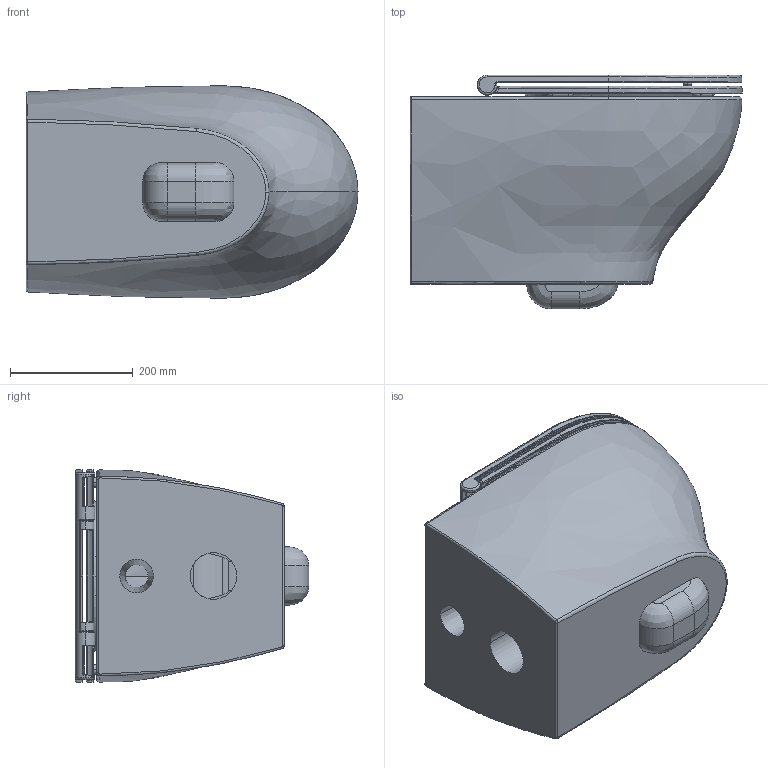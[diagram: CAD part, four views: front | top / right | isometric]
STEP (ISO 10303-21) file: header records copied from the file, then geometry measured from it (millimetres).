
FILE_DESCRIPTION (( 'STEP AP203' ), '1' );
FILE_NAME ('PAVCSP000000.STEP', '2021-04-29T07:39:53', ( '' ), ( '' ), 'SwSTEP 2.0', 'SolidWorks 2021', '' );
FILE_SCHEMA (( 'CONFIG_CONTROL_DESIGN' ));
Length unit declared in the file: millimetre
Products named in the file (5): PRA 100_SOSP new; PRAI800coperchio; PRA1800; PAVCSP000000; PRA1800ciambella
Assembly tree (4 placements, depth 3):
  PAVCSP000000
    PRA 100_SOSP new
    PRA1800
      PRAI800coperchio
      PRA1800ciambella
Bounding box: 540.26 x 380 x 345.29 mm (x, y, z)
Volume: 29426607.2 mm3; surface area: 1431217.5 mm2
Topology: 3 solids, 3 shells, 558 faces, 1350 edges, 797 vertices
Faces by surface type: bspline 225, cylinder 147, torus 115, plane 65, sphere 4, cone 2
Entity records: 44022 total; most frequent: CARTESIAN_POINT 31979, ORIENTED_EDGE 2676, DIRECTION 2130, EDGE_CURVE 1338, AXIS2_PLACEMENT_3D 930, VERTEX_POINT 797, CIRCLE 589, EDGE_LOOP 579
